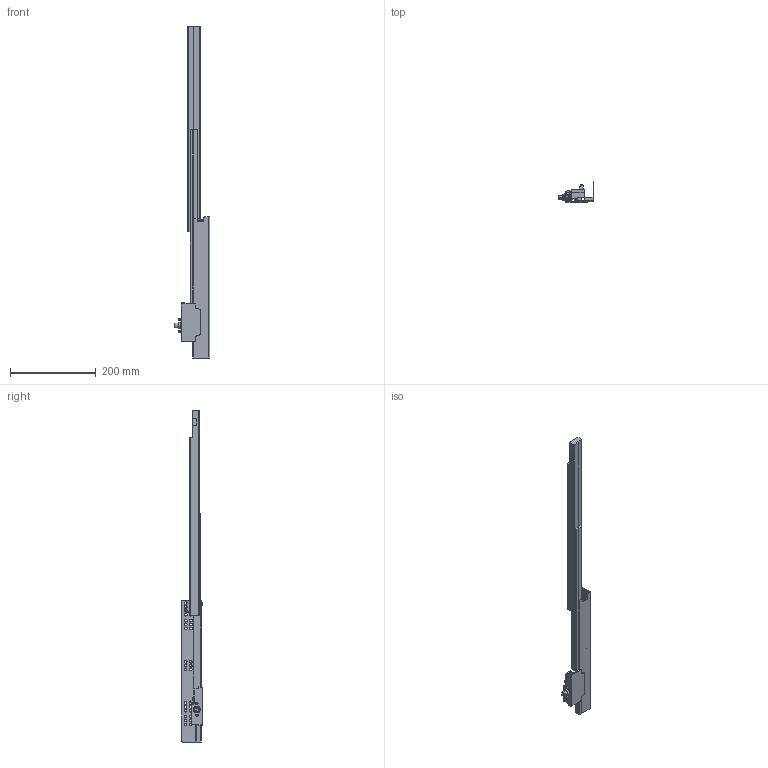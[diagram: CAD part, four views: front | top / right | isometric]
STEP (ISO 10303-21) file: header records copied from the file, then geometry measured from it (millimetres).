
FILE_DESCRIPTION (( 'STEP AP203' ), '1' );
FILE_NAME ('TF10500H-R-DTC3D-open.STEP', '2021-06-05T06:43:24', ( 'df' ), ( 'Microsoft' ), 'SwSTEP 2.0', 'SolidWorks 2018', '' );
FILE_SCHEMA (( 'CONFIG_CONTROL_DESIGN' ));
Length unit declared in the file: millimetre
Products named in the file (1): TF10500H-R-DTC3D-open
Bounding box: 83.3 x 48 x 774.3 mm (x, y, z)
Volume: 464872.3 mm3; surface area: 132671.7 mm2
Topology: 1 solids, 4 shells, 526 faces, 1355 edges, 836 vertices
Faces by surface type: cylinder 251, plane 167, bspline 102, sphere 4, torus 2
Entity records: 18216 total; most frequent: CARTESIAN_POINT 5569, ORIENTED_EDGE 2688, DIRECTION 2605, EDGE_CURVE 1344, AXIS2_PLACEMENT_3D 970, VERTEX_POINT 836, LINE 665, VECTOR 665
